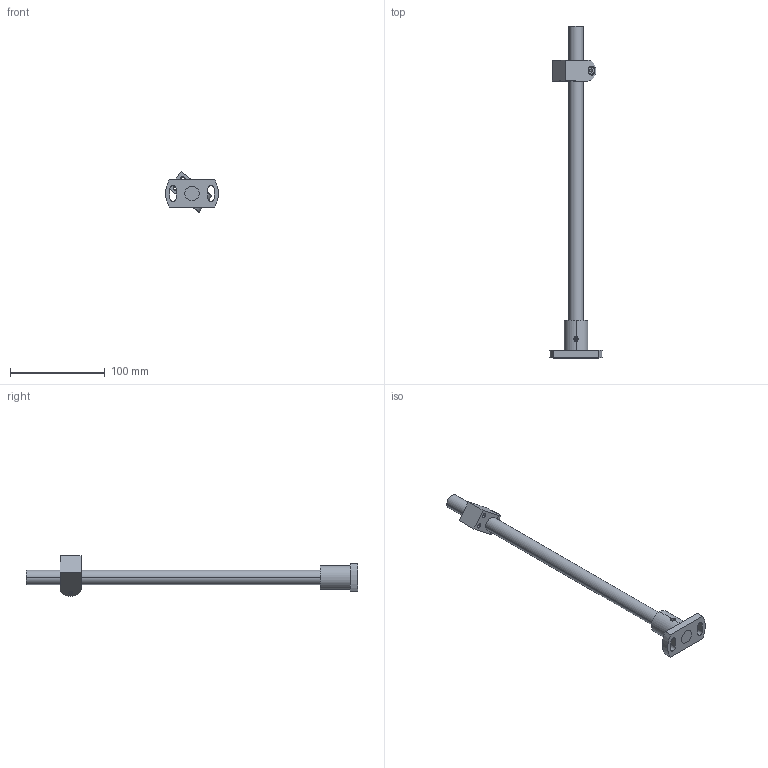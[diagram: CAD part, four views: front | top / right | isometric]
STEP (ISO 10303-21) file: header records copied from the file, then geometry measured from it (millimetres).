
FILE_DESCRIPTION (( 'STEP AP214' ), '1' );
FILE_NAME ('センサー土台1.STEP', '2025-10-22T07:21:10', ( '' ), ( '' ), 'SwSTEP 2.0', 'SolidWorks 2023', '' );
FILE_SCHEMA (( 'AUTOMOTIVE_DESIGN' ));
Length unit declared in the file: millimetre
Products named in the file (1): センサー土台1
Bounding box: 55.83 x 350 x 42.58 mm (x, y, z)
Volume: 94954.3 mm3; surface area: 32360 mm2
Topology: 6 solids, 6 shells, 143 faces, 330 edges, 197 vertices
Faces by surface type: plane 62, cylinder 43, cone 38
Entity records: 5861 total; most frequent: CARTESIAN_POINT 915, DIRECTION 720, ORIENTED_EDGE 648, EDGE_CURVE 324, AXIS2_PLACEMENT_3D 268, VERTEX_POINT 197, VECTOR 184, LINE 184
